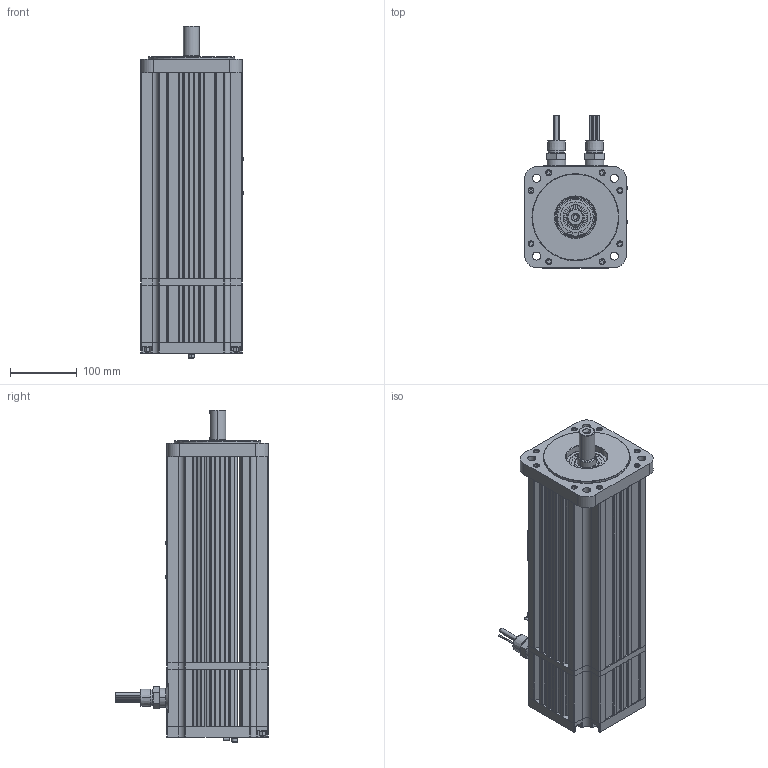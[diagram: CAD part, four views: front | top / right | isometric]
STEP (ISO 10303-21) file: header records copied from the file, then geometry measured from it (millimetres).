
FILE_DESCRIPTION (( 'STEP AP203' ), '1' );
FILE_NAME ('M463-KNSB-9T08.STEP', '2010-06-03T20:23:48', ( 'New3' ), ( 'Elwood Corp.' ), 'SwSTEP 2.0', 'SolidWorks 2009', '' );
FILE_SCHEMA (( 'CONFIG_CONTROL_DESIGN' ));
Products named in the file (1): M463-KNSB-9T08
Bounding box: 154.08 x 229.36 x 498.12 mm (x, y, z)
Surface area: 429077.3 mm2 (no closed solid volume)
Topology: 0 solids, 93 shells, 1093 faces, 4578 edges, 3564 vertices
Faces by surface type: plane 571, cylinder 396, cone 69, bspline 36, torus 21
Entity records: 55424 total; most frequent: CARTESIAN_POINT 18225, DIRECTION 7360, ORIENTED_EDGE 6914, EDGE_CURVE 4578, VERTEX_POINT 3564, VECTOR 2950, LINE 2950, AXIS2_PLACEMENT_3D 2205
